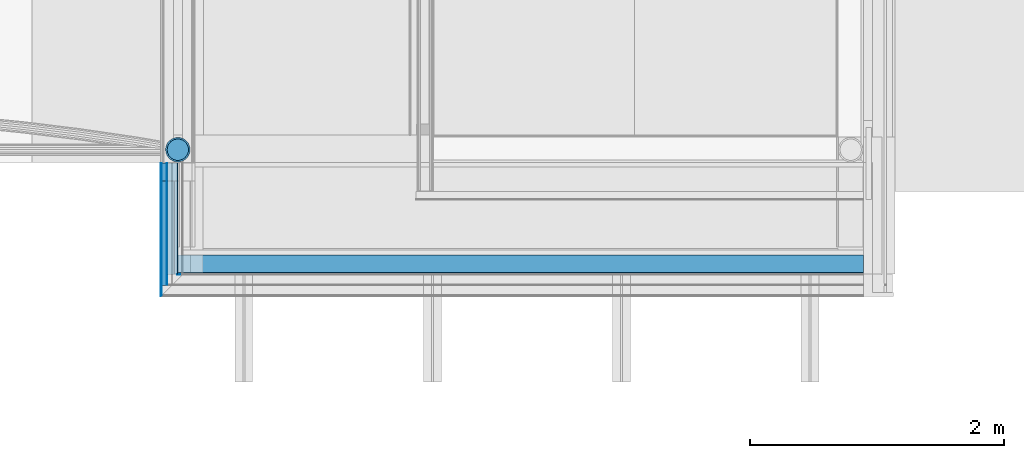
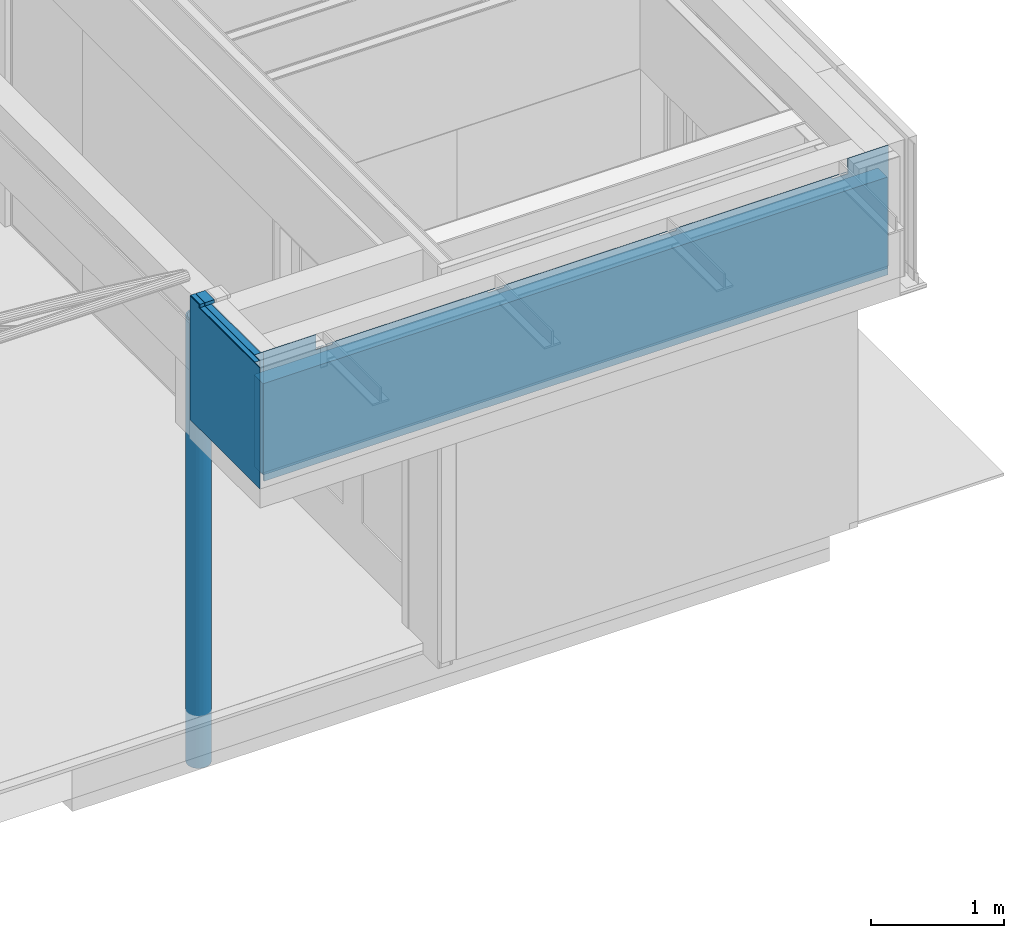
# One storey, part 64 of 165: 12 building element parts, 4 elements without a shape of their own.
"""IFC2X3 building model written with IfcOpenShell, lengths in millimetres."""

from ifc_helpers import new_model, entity, si_unit, converted_unit, derived_unit, money_unit, direction, frame, origin_with_axes, place, context, subcontext, project, spatial, faceted_brep, material, type_object, element, aggregate, save


model = new_model("IFC2X3")

# Units and contexts
model_context = context("Model", 3, precision=0.01, world=origin_with_axes(), true_north=direction((0.0, 1.0)))
body_context = subcontext(model_context, "Body", "Model", "MODEL_VIEW")
ifc_project = project(units=[si_unit("LENGTHUNIT", "METRE", prefix="MILLI"), si_unit("AREAUNIT", "SQUARE_METRE"), si_unit("VOLUMEUNIT", "CUBIC_METRE"), converted_unit("PLANEANGLEUNIT", "DEGREE", entity("IfcPlaneAngleMeasure", 0.0174532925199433), si_unit("PLANEANGLEUNIT", "RADIAN"), dimensions=[0, 0, 0, 0, 0, 0, 0]), money_unit("EUR"), converted_unit("TIMEUNIT", "Year", entity("IfcTimeMeasure", 31556926.0), si_unit("TIMEUNIT", "SECOND"), dimensions=[0, 0, 1, 0, 0, 0, 0]), si_unit("MASSUNIT", "GRAM", prefix="KILO"), si_unit("THERMODYNAMICTEMPERATUREUNIT", "DEGREE_CELSIUS"), si_unit("LUMINOUSINTENSITYUNIT", "LUMEN"), si_unit("ENERGYUNIT", "JOULE", prefix="MEGA"), derived_unit("THERMALCONDUCTANCEUNIT", [(si_unit("POWERUNIT", "WATT"), 1), (si_unit("LENGTHUNIT", "METRE"), -1), (si_unit("THERMODYNAMICTEMPERATUREUNIT", "KELVIN"), -1)]), derived_unit("SPECIFICHEATCAPACITYUNIT", [(si_unit("ENERGYUNIT", "JOULE"), 1), (si_unit("MASSUNIT", "GRAM", prefix="KILO"), -1), (si_unit("THERMODYNAMICTEMPERATUREUNIT", "KELVIN"), -1)]), derived_unit("MASSDENSITYUNIT", [(si_unit("MASSUNIT", "GRAM", prefix="KILO"), 1), (si_unit("VOLUMEUNIT", "CUBIC_METRE"), -1)])], contexts=[model_context])

# Site, building, storey
site_placement = place(None, origin_with_axes())
site = spatial("IfcSite", under=ifc_project, at=site_placement, Name="Site", CompositionType="ELEMENT")
building_placement = place(site_placement, origin_with_axes())
building = spatial("IfcBuilding", under=site, at=building_placement, Name="Naam gebouw", CompositionType="ELEMENT")
storey_placement = place(building_placement, origin_with_axes())
storey = spatial("IfcBuildingStorey", under=building, at=storey_placement, Name="Begane grond", CompositionType="ELEMENT", Elevation=0.0)

# Column, building element parts
column_type = type_object("IfcColumnType", Name="193.7X12.5 194 x 194", PredefinedType="COLUMN")
column_placement = place(storey_placement, frame((24499.99877127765, 4579.999999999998, -480.0), z_axis=(0.0, 0.0, 1.0), x_axis=(1.0, 0.0, 0.0)))
column = element("IfcColumn", 1, at=column_placement, inside=storey, type_object=column_type, Name="28_Kolom-x", ObjectType="COLUMN")
ifc_material_1 = material(Name="Beton gewapend C")
building_element_part_1_placement = place(column_placement, origin_with_axes())
building_element_part_1 = element("IfcBuildingElementPart", 2, at=building_element_part_1_placement, material=ifc_material_1, Name="Beton gewapend C", context=body_context, shape_type="Brep", body=[
    faceted_brep([(80.93323232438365, 23.76414116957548, 4060.0), (84.35000000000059, 0.0, 4060.0), (84.35000000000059, 0.0, 0.0), (80.93323232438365, 23.76414116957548, 0.0), (80.93323232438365, -23.76414116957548, 4060.0), (70.95973549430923, 45.6030529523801, 4060.0), (55.23750290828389, 63.74747659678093, 4060.0), (35.04025634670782, 76.72745880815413, 4060.0), (12.00425660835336, 83.49143862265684, 4060.0), (-12.00425660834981, 83.49143862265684, 4060.0), (-35.04025634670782, 76.72745880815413, 4060.0), (-55.23750290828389, 63.74747659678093, 4060.0), (-70.95973549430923, 45.6030529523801, 4060.0), (-80.93323232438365, 23.76414116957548, 4060.0), (-84.35000000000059, 0.0, 4060.0), (-80.93323232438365, -23.76414116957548, 4060.0), (-70.95973549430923, -45.6030529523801, 4060.0), (-55.23750290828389, -63.74747659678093, 4060.0), (-35.04025634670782, -76.72745880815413, 4060.0), (-12.00425660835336, -83.49143862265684, 4060.0), (12.00425660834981, -83.49143862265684, 4060.0), (35.04025634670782, -76.72745880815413, 4060.0), (55.23750290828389, -63.74747659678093, 4060.0), (70.95973549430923, -45.6030529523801, 4060.0), (80.93323232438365, -23.76414116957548, 0.0), (70.95973549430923, 45.6030529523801, 0.0), (70.95973549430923, -45.6030529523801, 0.0), (55.23750290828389, -63.74747659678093, 0.0), (35.04025634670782, -76.72745880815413, 0.0), (12.00425660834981, -83.49143862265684, 0.0), (-12.00425660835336, -83.49143862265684, 0.0), (-35.04025634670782, -76.72745880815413, 0.0), (-55.23750290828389, -63.74747659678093, 0.0), (-70.95973549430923, -45.6030529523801, 0.0), (-80.93323232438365, -23.76414116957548, 0.0), (-84.35000000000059, 0.0, 0.0), (-80.93323232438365, 23.76414116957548, 0.0), (-70.95973549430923, 45.6030529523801, 0.0), (-55.23750290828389, 63.74747659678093, 0.0), (-35.04025634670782, 76.72745880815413, 0.0), (-12.00425660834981, 83.49143862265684, 0.0), (12.00425660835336, 83.49143862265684, 0.0), (35.04025634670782, 76.72745880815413, 0.0), (55.23750290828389, 63.74747659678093, 0.0)], [[[0, 1, 2, 3]], [[4, 1, 0, 5, 6, 7, 8, 9, 10, 11, 12, 13, 14, 15, 16, 17, 18, 19, 20, 21, 22, 23]], [[1, 4, 24, 2]], [[25, 3, 2, 24, 26, 27, 28, 29, 30, 31, 32, 33, 34, 35, 36, 37, 38, 39, 40, 41, 42, 43]], [[5, 0, 3, 25]], [[6, 5, 25, 43]], [[7, 6, 43, 42]], [[8, 7, 42, 41]], [[9, 8, 41, 40]], [[10, 9, 40, 39]], [[11, 10, 39, 38]], [[12, 11, 38, 37]], [[13, 12, 37, 36]], [[14, 13, 36, 35]], [[15, 14, 35, 34]], [[16, 15, 34, 33]], [[17, 16, 33, 32]], [[18, 17, 32, 31]], [[19, 18, 31, 30]], [[20, 19, 30, 29]], [[21, 20, 29, 28]], [[22, 21, 28, 27]], [[23, 22, 27, 26]], [[4, 23, 26, 24]]]),
    faceted_brep([(80.93323232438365, -23.76414116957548, 4074.999999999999), (84.35000000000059, 0.0, 4074.999999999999), (84.35000000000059, 0.0, 4079.999999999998), (80.93323232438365, -23.76414116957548, 4079.999999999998), (80.93323232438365, 23.76414116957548, 4074.999999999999), (70.95973549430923, -45.6030529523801, 4074.999999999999), (55.23750290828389, -63.74747659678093, 4074.999999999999), (35.04025634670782, -76.72745880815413, 4074.999999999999), (12.00425660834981, -83.49143862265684, 4074.999999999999), (-12.00425660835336, -83.49143862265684, 4074.999999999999), (-35.04025634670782, -76.72745880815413, 4074.999999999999), (-55.23750290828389, -63.74747659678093, 4074.999999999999), (-70.95973549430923, -45.6030529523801, 4074.999999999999), (-80.93323232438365, -23.76414116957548, 4074.999999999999), (-84.35000000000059, 0.0, 4074.999999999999), (-80.93323232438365, 23.76414116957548, 4074.999999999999), (-70.95973549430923, 45.6030529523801, 4074.999999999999), (-55.23750290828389, 63.74747659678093, 4074.999999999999), (-35.04025634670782, 76.72745880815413, 4074.999999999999), (-12.00425660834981, 83.49143862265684, 4074.999999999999), (12.00425660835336, 83.49143862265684, 4074.999999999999), (35.04025634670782, 76.72745880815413, 4074.999999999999), (55.23750290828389, 63.74747659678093, 4074.999999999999), (70.95973549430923, 45.6030529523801, 4074.999999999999), (80.93323232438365, 23.76414116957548, 4079.999999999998), (70.95973549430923, -45.6030529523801, 4079.999999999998), (70.95973549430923, 45.6030529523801, 4079.999999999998), (55.23750290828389, 63.74747659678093, 4079.999999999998), (35.04025634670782, 76.72745880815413, 4079.999999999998), (12.00425660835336, 83.49143862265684, 4079.999999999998), (-12.00425660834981, 83.49143862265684, 4079.999999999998), (-35.04025634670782, 76.72745880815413, 4079.999999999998), (-55.23750290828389, 63.74747659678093, 4079.999999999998), (-70.95973549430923, 45.6030529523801, 4079.999999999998), (-80.93323232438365, 23.76414116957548, 4079.999999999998), (-84.35000000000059, 0.0, 4079.999999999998), (-80.93323232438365, -23.76414116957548, 4079.999999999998), (-70.95973549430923, -45.6030529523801, 4079.999999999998), (-55.23750290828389, -63.74747659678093, 4079.999999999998), (-35.04025634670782, -76.72745880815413, 4079.999999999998), (-12.00425660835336, -83.49143862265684, 4079.999999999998), (12.00425660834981, -83.49143862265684, 4079.999999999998), (35.04025634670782, -76.72745880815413, 4079.999999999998), (55.23750290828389, -63.74747659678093, 4079.999999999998)], [[[0, 1, 2, 3]], [[4, 1, 0, 5, 6, 7, 8, 9, 10, 11, 12, 13, 14, 15, 16, 17, 18, 19, 20, 21, 22, 23]], [[1, 4, 24, 2]], [[25, 3, 2, 24, 26, 27, 28, 29, 30, 31, 32, 33, 34, 35, 36, 37, 38, 39, 40, 41, 42, 43]], [[5, 0, 3, 25]], [[6, 5, 25, 43]], [[7, 6, 43, 42]], [[8, 7, 42, 41]], [[9, 8, 41, 40]], [[10, 9, 40, 39]], [[11, 10, 39, 38]], [[12, 11, 38, 37]], [[13, 12, 37, 36]], [[14, 13, 36, 35]], [[15, 14, 35, 34]], [[16, 15, 34, 33]], [[17, 16, 33, 32]], [[18, 17, 32, 31]], [[19, 18, 31, 30]], [[20, 19, 30, 29]], [[21, 20, 29, 28]], [[22, 21, 28, 27]], [[23, 22, 27, 26]], [[4, 23, 26, 24]]]),
])
ifc_material_2 = material(Name="Metaal - Staal C")
building_element_part_2_placement = place(column_placement, origin_with_axes())
building_element_part_2 = element("IfcBuildingElementPart", 3, at=building_element_part_2_placement, material=ifc_material_2, Name="Metaal - Staal C", context=body_context, shape_type="Brep", body=[
    faceted_brep([(96.84999999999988, 0.0, 0.0), (92.92689449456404, 27.28579813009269, 0.0), (92.92689449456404, 27.28579813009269, 4079.999999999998), (96.84999999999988, 0.0, 4079.999999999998), (92.92689449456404, -27.28579813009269, 0.0), (81.47540465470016, -52.36106317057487, 0.0), (63.42326208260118, -73.19434627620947, 0.0), (40.23294400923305, -88.0978587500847, 0.0), (13.78319208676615, -95.86420664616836, 0.0), (-13.78319208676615, -95.86420664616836, 0.0), (-40.23294400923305, -88.0978587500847, 0.0), (-63.42326208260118, -73.19434627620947, 0.0), (-81.47540465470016, -52.36106317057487, 0.0), (-92.92689449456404, -27.28579813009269, 0.0), (-96.84999999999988, 0.0, 0.0), (-92.92689449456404, 27.28579813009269, 0.0), (-81.47540465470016, 52.36106317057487, 0.0), (-63.42326208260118, 73.19434627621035, 0.0), (-40.23294400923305, 88.0978587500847, 0.0), (-13.78319208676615, 95.86420664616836, 0.0), (13.78319208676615, 95.86420664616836, 0.0), (40.23294400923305, 88.0978587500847, 0.0), (63.42326208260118, 73.19434627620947, 0.0), (81.47540465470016, 52.36106317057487, 0.0), (84.35000000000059, 0.0, 0.0), (80.93323232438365, 23.76414116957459, 0.0), (70.95973549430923, 45.6030529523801, 0.0), (55.23750290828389, 63.74747659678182, 0.0), (35.04025634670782, 76.72745880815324, 0.0), (12.00425660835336, 83.49143862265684, 0.0), (-12.00425660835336, 83.49143862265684, 0.0), (-35.04025634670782, 76.72745880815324, 0.0), (-55.23750290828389, 63.74747659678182, 0.0), (-70.95973549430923, 45.6030529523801, 0.0), (-80.93323232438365, 23.76414116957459, 0.0), (-84.35000000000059, 0.0, 0.0), (-80.93323232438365, -23.76414116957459, 0.0), (-70.95973549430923, -45.60305295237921, 0.0), (-55.23750290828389, -63.74747659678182, 0.0), (-35.04025634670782, -76.72745880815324, 0.0), (-12.00425660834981, -83.49143862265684, 0.0), (12.00425660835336, -83.49143862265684, 0.0), (35.04025634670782, -76.72745880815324, 0.0), (55.23750290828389, -63.74747659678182, 0.0), (70.95973549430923, -45.60305295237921, 0.0), (80.93323232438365, -23.76414116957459, 0.0), (81.47540465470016, 52.36106317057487, 4079.999999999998), (63.42326208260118, 73.19434627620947, 4079.999999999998), (40.23294400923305, 88.0978587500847, 4079.999999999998), (13.78319208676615, 95.86420664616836, 4079.999999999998), (-13.78319208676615, 95.86420664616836, 4079.999999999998), (-40.23294400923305, 88.0978587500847, 4079.999999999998), (-63.42326208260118, 73.19434627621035, 4079.999999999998), (-81.47540465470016, 52.36106317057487, 4079.999999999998), (-92.92689449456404, 27.28579813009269, 4079.999999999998), (-96.84999999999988, 0.0, 4079.999999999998), (-92.92689449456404, -27.28579813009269, 4079.999999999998), (-81.47540465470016, -52.36106317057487, 4079.999999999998), (-63.42326208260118, -73.19434627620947, 4079.999999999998), (-40.23294400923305, -88.0978587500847, 4079.999999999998), (-13.78319208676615, -95.86420664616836, 4079.999999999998), (13.78319208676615, -95.86420664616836, 4079.999999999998), (40.23294400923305, -88.0978587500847, 4079.999999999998), (63.42326208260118, -73.19434627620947, 4079.999999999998), (81.47540465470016, -52.36106317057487, 4079.999999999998), (92.92689449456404, -27.28579813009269, 4079.999999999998), (84.35000000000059, 0.0, 4079.999999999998), (80.93323232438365, -23.76414116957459, 4079.999999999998), (70.95973549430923, -45.60305295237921, 4079.999999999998), (55.23750290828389, -63.74747659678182, 4079.999999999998), (35.04025634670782, -76.72745880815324, 4079.999999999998), (12.00425660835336, -83.49143862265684, 4079.999999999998), (-12.00425660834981, -83.49143862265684, 4079.999999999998), (-35.04025634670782, -76.72745880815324, 4079.999999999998), (-55.23750290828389, -63.74747659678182, 4079.999999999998), (-70.95973549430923, -45.60305295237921, 4079.999999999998), (-80.93323232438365, -23.76414116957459, 4079.999999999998), (-84.35000000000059, 0.0, 4079.999999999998), (-80.93323232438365, 23.76414116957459, 4079.999999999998), (-70.95973549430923, 45.6030529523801, 4079.999999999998), (-55.23750290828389, 63.74747659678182, 4079.999999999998), (-35.04025634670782, 76.72745880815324, 4079.999999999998), (-12.00425660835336, 83.49143862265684, 4079.999999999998), (12.00425660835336, 83.49143862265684, 4079.999999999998), (35.04025634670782, 76.72745880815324, 4079.999999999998), (55.23750290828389, 63.74747659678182, 4079.999999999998), (70.95973549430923, 45.6030529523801, 4079.999999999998), (80.93323232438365, 23.76414116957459, 4079.999999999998)], [[[0, 1, 2, 3]], [[0, 4, 5, 6, 7, 8, 9, 10, 11, 12, 13, 14, 15, 16, 17, 18, 19, 20, 21, 22, 23, 1], [24, 25, 26, 27, 28, 29, 30, 31, 32, 33, 34, 35, 36, 37, 38, 39, 40, 41, 42, 43, 44, 45]], [[1, 23, 46, 2]], [[3, 2, 46, 47, 48, 49, 50, 51, 52, 53, 54, 55, 56, 57, 58, 59, 60, 61, 62, 63, 64, 65], [66, 67, 68, 69, 70, 71, 72, 73, 74, 75, 76, 77, 78, 79, 80, 81, 82, 83, 84, 85, 86, 87]], [[4, 0, 3, 65]], [[5, 4, 65, 64]], [[6, 5, 64, 63]], [[7, 6, 63, 62]], [[8, 7, 62, 61]], [[9, 8, 61, 60]], [[10, 9, 60, 59]], [[11, 10, 59, 58]], [[12, 11, 58, 57]], [[13, 12, 57, 56]], [[14, 13, 56, 55]], [[15, 14, 55, 54]], [[16, 15, 54, 53]], [[17, 16, 53, 52]], [[18, 17, 52, 51]], [[19, 18, 51, 50]], [[20, 19, 50, 49]], [[21, 20, 49, 48]], [[22, 21, 48, 47]], [[23, 22, 47, 46]], [[25, 24, 66, 87]], [[26, 25, 87, 86]], [[27, 26, 86, 85]], [[28, 27, 85, 84]], [[29, 28, 84, 83]], [[30, 29, 83, 82]], [[31, 30, 82, 81]], [[32, 31, 81, 80]], [[33, 32, 80, 79]], [[34, 33, 79, 78]], [[35, 34, 78, 77]], [[36, 35, 77, 76]], [[37, 36, 76, 75]], [[38, 37, 75, 74]], [[39, 38, 74, 73]], [[40, 39, 73, 72]], [[41, 40, 72, 71]], [[42, 41, 71, 70]], [[43, 42, 70, 69]], [[44, 43, 69, 68]], [[45, 44, 68, 67]], [[24, 45, 67, 66]]]),
])
aggregate(column, [building_element_part_1, building_element_part_2])

# Wall, building element parts
wall_type_1 = type_object("IfcWallType", Name="21 STO Buitengevelisolatie 120 271", PredefinedType="NOTDEFINED")
wall_1_placement = place(storey_placement, frame((24499.99903999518, 3600.0, 2610.0), z_axis=(0.0, 0.0, 1.0), x_axis=(0.0, 1.0, 0.0)))
wall_1 = element("IfcWall", 4, at=wall_1_placement, inside=storey, type_object=wall_type_1, Name="21_Wand-x")
ifc_material_3 = material(Name="STO weefsellaag")
building_element_part_3_placement = place(wall_1_placement, origin_with_axes())
building_element_part_3 = element("IfcBuildingElementPart", 5, at=building_element_part_3_placement, material=ifc_material_3, Name="STO weefsellaag", context=body_context, shape_type="Brep", body=[
    faceted_brep([(-168.000000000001, 128.0000000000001, 1249.999999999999), (-167.9999992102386, 128.0002679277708, 145.9999999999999), (874.9999999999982, 128.0002679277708, 145.9999999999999), (874.9999999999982, 128.0000000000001, 1250.0), (734.7576368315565, 128.0000000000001, 1250.0), (-168.000000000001, 132.9999999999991, 1249.999999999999), (-168.000000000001, 133.0002687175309, 145.9999999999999), (874.9999999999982, 133.0002687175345, 145.9999999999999), (874.9999999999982, 132.9999999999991, 1250.0), (734.7576368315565, 132.9999999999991, 1250.0)], [[[0, 1, 2, 3, 4]], [[5, 6, 1, 0]], [[6, 7, 2, 1]], [[3, 2, 7, 8]], [[4, 3, 8, 9]], [[0, 4, 9, 5]], [[8, 7, 6, 5, 9]]]),
])
ifc_material_4 = material(Name="Isolatie - STO EPS")
building_element_part_4_placement = place(wall_1_placement, origin_with_axes())
building_element_part_4 = element("IfcBuildingElementPart", 6, at=building_element_part_4_placement, material=ifc_material_4, Name="Isolatie - STO EPS", context=body_context, shape_type="Brep", body=[
    faceted_brep([(-87.99999999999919, 88.00000000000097, 1249.999999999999), (-87.99999999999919, 88.00000000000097, 145.9999999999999), (874.9999999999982, 88.00000000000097, 145.9999999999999), (874.9999999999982, 88.00000000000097, 1280.0), (734.7576368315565, 88.00000000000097, 1280.0), (734.7576368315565, 88.00000000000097, 1250.0), (-87.99999999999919, 128.0000000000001, 1249.999999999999), (-87.99999999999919, 128.0002687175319, 145.9999999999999), (874.9999999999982, 128.0002687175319, 145.9999999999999), (874.9999999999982, 128.0000000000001, 1280.0), (734.7576368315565, 128.0000000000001, 1280.0), (734.7576368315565, 128.0000000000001, 1250.0)], [[[0, 1, 2, 3, 4, 5]], [[6, 7, 1, 0]], [[7, 8, 2, 1]], [[3, 2, 8, 9]], [[4, 3, 9, 10]], [[4, 10, 11, 5]], [[0, 5, 11, 6]], [[9, 8, 7, 6, 11, 10]]]),
])
ifc_material_5 = material(Name="STO pleisterlaag")
building_element_part_5_placement = place(wall_1_placement, origin_with_axes())
building_element_part_5 = element("IfcBuildingElementPart", 7, at=building_element_part_5_placement, material=ifc_material_5, Name="STO pleisterlaag", context=body_context, shape_type="Brep", body=[
    faceted_brep([(-173.0000000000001, 132.9999999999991, 1249.999999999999), (-173.0000000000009, 133.0002687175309, 145.9999999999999), (874.9999999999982, 133.0002687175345, 145.9999999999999), (874.9999999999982, 132.9999999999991, 1250.0), (734.7576368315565, 132.9999999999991, 1250.0), (-173.0000000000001, 135.9999999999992, 1249.999999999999), (-173.0000000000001, 136.000268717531, 145.9999999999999), (874.9999999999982, 136.0002687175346, 145.9999999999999), (874.9999999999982, 135.9999999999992, 1280.0), (875.0000000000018, 134.999999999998, 1280.0), (874.9999999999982, 134.999999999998, 1250.0), (734.7576368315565, 134.999999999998, 1250.0), (734.7576368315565, 135.9999999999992, 1250.0), (734.7576368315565, 135.9999999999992, 1280.0), (734.7576368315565, 134.999999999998, 1280.0)], [[[0, 1, 2, 3, 4]], [[5, 6, 1, 0]], [[6, 7, 2, 1]], [[3, 2, 7, 8, 9, 10]], [[4, 3, 10, 11]], [[4, 11, 12, 5, 0]], [[8, 7, 6, 5, 12, 13]], [[14, 9, 8, 13]], [[11, 10, 9, 14]], [[14, 13, 12, 11]]]),
])
building_element_part_6_placement = place(wall_1_placement, origin_with_axes())
building_element_part_6 = element("IfcBuildingElementPart", 8, at=building_element_part_6_placement, material=ifc_material_4, Name="Isolatie - STO EPS", context=body_context, shape_type="Brep", body=[
    faceted_brep([(-3.999999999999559, 4.000000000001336, 1249.999999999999), (-3.999999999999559, 4.000000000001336, 145.9999999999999), (874.9999999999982, 4.000000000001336, 145.9999999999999), (874.9999999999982, 4.000000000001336, 970.0000011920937), (0.0, 4.000000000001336, 970.0000011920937), (0.0, 4.000000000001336, 984.9999999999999), (874.9999999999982, 4.000000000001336, 984.9999999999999), (874.9999999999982, 4.000000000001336, 1219.999999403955), (0.0, 4.000000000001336, 1219.999999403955), (0.0, 4.000000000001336, 1250.000001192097), (-3.999999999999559, 83.99999999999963, 145.9999999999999), (-3.999999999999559, 83.99999999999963, 1249.999999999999), (874.9999999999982, 83.99999999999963, 145.9999999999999), (874.9999999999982, 83.99999999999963, 1280.0), (874.9999999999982, 4.000000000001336, 1280.0), (874.9999999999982, 4.000000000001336, 1250.000001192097), (874.9999999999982, 31.00000953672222, 1250.000001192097), (874.9999999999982, 31.00000953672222, 984.9999999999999), (874.9999999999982, 46.00000834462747, 984.9999999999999), (874.9999999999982, 46.00000834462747, 970.0000011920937), (0.0, 46.00000834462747, 970.0000011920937), (0.0, 46.00000834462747, 984.9999999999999), (0.0, 31.00000953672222, 984.9999999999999), (0.0, 31.00000953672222, 1250.000001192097), (0.0, 25.00000834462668, 1219.999999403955), (0.0, 25.00000834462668, 984.9999999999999), (874.9999999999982, 25.00000834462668, 984.9999999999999), (874.9999999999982, 25.00000834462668, 1219.999999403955), (734.7576368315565, 31.00000953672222, 1250.000001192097), (734.7576368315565, 83.99999999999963, 1250.0), (734.7576368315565, 83.99999999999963, 1280.0), (734.7576368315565, 4.000000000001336, 1280.0), (734.7576368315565, 4.000000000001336, 1250.000001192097)], [[[0, 1, 2, 3, 4, 5, 6, 7, 8, 9]], [[10, 1, 0, 11]], [[12, 2, 1, 10]], [[3, 2, 12, 13, 14, 15, 16, 17, 18, 19]], [[19, 20, 4, 3]], [[21, 22, 23, 9, 8, 24, 25, 5, 4, 20]], [[5, 25, 26, 6]], [[6, 26, 27, 7]], [[27, 24, 8, 7]], [[0, 9, 23, 28, 29, 11]], [[13, 12, 10, 11, 29, 30]], [[30, 31, 14, 13]], [[14, 31, 32, 15]], [[32, 28, 16, 15]], [[23, 22, 17, 16, 28]], [[22, 21, 18, 17]], [[21, 20, 19, 18]], [[25, 24, 27, 26]], [[30, 29, 28, 32, 31]]]),
])
ifc_material_6 = material(Name="STO lijmlaag")
building_element_part_7_placement = place(wall_1_placement, origin_with_axes())
building_element_part_7 = element("IfcBuildingElementPart", 9, at=building_element_part_7_placement, material=ifc_material_6, Name="STO lijmlaag", context=body_context, shape_type="Brep", body=[
    faceted_brep([(-83.99999999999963, 83.99999999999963, 1249.999999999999), (-83.99999999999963, 83.99999999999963, 145.9999999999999), (874.9999999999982, 83.99999999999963, 145.9999999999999), (874.9999999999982, 83.99999999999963, 1250.0), (734.7576368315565, 83.99999999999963, 1250.0), (-83.99999999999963, 88.00000000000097, 1249.999999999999), (-83.99999999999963, 88.00000000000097, 145.9999999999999), (874.9999999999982, 88.00000000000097, 145.9999999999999), (874.9999999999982, 88.00000000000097, 1250.0), (734.7576368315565, 88.00000000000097, 1250.0)], [[[0, 1, 2, 3, 4]], [[5, 6, 1, 0]], [[6, 7, 2, 1]], [[3, 2, 7, 8]], [[4, 3, 8, 9]], [[0, 4, 9, 5]], [[8, 7, 6, 5, 9]]]),
])
building_element_part_8_placement = place(wall_1_placement, origin_with_axes())
building_element_part_8 = element("IfcBuildingElementPart", 10, at=building_element_part_8_placement, material=ifc_material_6, Name="STO lijmlaag", context=body_context, shape_type="Brep", body=[
    faceted_brep([(0.0, 0.0, 970.0000011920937), (0.0, 0.0, 145.9999999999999), (874.9999999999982, 0.0, 145.9999999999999), (874.9999999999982, 0.0, 970.0000011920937), (0.0, 4.000000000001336, 970.0000011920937), (0.0, 4.000000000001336, 145.9999999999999), (874.9999999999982, 4.000000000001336, 145.9999999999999), (874.9999999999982, 4.000000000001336, 970.0000011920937)], [[[0, 1, 2, 3]], [[4, 5, 1, 0]], [[5, 6, 2, 1]], [[3, 2, 6, 7]], [[7, 4, 0, 3]], [[7, 6, 5, 4]]]),
    faceted_brep([(874.9999999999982, 0.0, 1219.999999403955), (0.0, 0.0, 1219.999999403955), (0.0, 0.0, 984.9999999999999), (874.9999999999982, 0.0, 984.9999999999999), (874.9999999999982, 4.000000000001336, 1219.999999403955), (0.0, 4.000000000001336, 1219.999999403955), (0.0, 4.000000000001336, 984.9999999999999), (874.9999999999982, 4.000000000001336, 984.9999999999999)], [[[0, 1, 2, 3]], [[1, 0, 4, 5]], [[1, 5, 6, 2]], [[7, 3, 2, 6]], [[4, 0, 3, 7]], [[5, 4, 7, 6]]]),
])
aggregate(wall_1, [building_element_part_3, building_element_part_4, building_element_part_5, building_element_part_6, building_element_part_7, building_element_part_8])

# Wall, building element part
wall_type_2 = type_object("IfcWallType", Name="21 STO Buitengevelisolatie 160 390", PredefinedType="NOTDEFINED")
wall_2_placement = place(storey_placement, frame((29899.99999999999, 3599.999999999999, 2610.0), z_axis=(0.0, 0.0, 1.0), x_axis=(-1.0, 0.0, 0.0)))
wall_2 = element("IfcWall", 11, at=wall_2_placement, inside=storey, type_object=wall_type_2, Name="21_Wand-x")
building_element_part_9_placement = place(wall_2_placement, origin_with_axes())
building_element_part_9 = element("IfcBuildingElementPart", 12, at=building_element_part_9_placement, material=ifc_material_6, Name="STO lijmlaag", context=body_context, shape_type="Brep", body=[
    faceted_brep([(0.0, 0.0, 1249.999999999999), (0.0, 3.999999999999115, 1249.999999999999), (-2.235182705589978e-06, 3.999999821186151, 145.9999999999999), (-2.235182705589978e-06, 0.0, 145.9999999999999), (350.0000000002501, 0.0, 1250.0), (350.0000000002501, 3.999999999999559, 1250.0), (5404.000960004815, 3.999999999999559, 1249.999999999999), (5404.000960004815, 3.999999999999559, 145.9999999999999), (5364.001228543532, 3.999999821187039, 145.9999999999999), (350.0000000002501, 4.000000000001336, 1130.0), (412.5000000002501, 4.000000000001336, 1130.0), (412.5000000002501, 3.999999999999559, 1125.000000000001), (350.0000000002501, 3.999999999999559, 1125.000000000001), (350.0000000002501, 3.999999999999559, 1110.000000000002), (490.0000000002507, 3.999999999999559, 1110.000000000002), (490.0000000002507, 3.999999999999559, 1125.000000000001), (427.5000000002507, 3.999999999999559, 1125.000000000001), (427.5000000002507, 4.000000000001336, 1130.0), (1897.50000000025, 4.000000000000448, 1130.0), (1897.50000000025, 3.999999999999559, 1125.000000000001), (1835.00000000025, 3.999999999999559, 1125.000000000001), (1835.00000000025, 3.999999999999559, 1110.000000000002), (1975.00000000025, 3.999999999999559, 1110.000000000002), (1975.00000000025, 3.999999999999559, 1125.000000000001), (1912.50000000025, 3.999999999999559, 1125.000000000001), (1912.50000000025, 4.000000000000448, 1130.0), (3387.500961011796, 4.000000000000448, 1130.0), (3387.500961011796, 3.999999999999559, 1125.000000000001), (3325.000961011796, 3.999999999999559, 1125.000000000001), (3325.000961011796, 3.999999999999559, 1110.000000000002), (3465.000961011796, 3.999999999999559, 1110.000000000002), (3465.000961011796, 3.999999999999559, 1125.000000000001), (3402.500961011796, 3.999999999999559, 1125.000000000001), (3402.500961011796, 4.000000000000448, 1130.0), (4872.500960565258, 3.999999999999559, 1130.0), (4872.500960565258, 3.999999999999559, 1125.000000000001), (4810.000960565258, 3.999999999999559, 1125.000000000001), (4810.000960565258, 3.999999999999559, 1110.000000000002), (4950.000960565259, 3.999999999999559, 1110.000000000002), (4950.000960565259, 3.999999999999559, 1125.000000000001), (4887.500960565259, 3.999999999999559, 1125.000000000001), (4887.500960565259, 3.999999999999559, 1130.0), (4950.000960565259, 3.999999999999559, 1130.0), (4950.000960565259, 3.999999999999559, 1250.0), (5404.000960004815, 0.0, 145.9999999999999), (5360.001228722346, 0.0, 145.9999999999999), (5404.000960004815, 0.0, 1249.999999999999), (4950.000960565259, 0.0, 1250.0), (4950.000960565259, 0.0, 1130.0), (4887.500960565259, 0.0, 1130.0), (4887.500960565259, 0.0, 1125.000000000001), (4950.000960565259, 0.0, 1125.000000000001), (4950.000960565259, 0.0, 1110.000000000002), (4810.000960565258, 0.0, 1110.000000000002), (4810.000960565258, 0.0, 1125.000000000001), (4872.500960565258, 0.0, 1125.000000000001), (4872.500960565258, 0.0, 1130.0), (3402.500961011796, 0.0, 1130.0), (3402.500961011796, 0.0, 1125.000000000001), (3465.000961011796, 0.0, 1125.000000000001), (3465.000961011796, 0.0, 1110.000000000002), (3325.000961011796, 0.0, 1110.000000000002), (3325.000961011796, 0.0, 1125.000000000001), (3387.500961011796, 0.0, 1125.000000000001), (3387.500961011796, 0.0, 1130.0), (1912.50000000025, 0.0, 1130.0), (1912.50000000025, 0.0, 1125.000000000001), (1975.00000000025, 0.0, 1125.000000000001), (1975.00000000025, 0.0, 1110.000000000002), (1835.00000000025, 0.0, 1110.000000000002), (1835.00000000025, 0.0, 1125.000000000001), (1897.50000000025, 0.0, 1125.000000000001), (1897.50000000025, 0.0, 1130.0), (427.5000000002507, 0.0, 1130.0), (427.5000000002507, 0.0, 1125.000000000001), (490.0000000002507, 0.0, 1125.000000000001), (490.0000000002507, 0.0, 1110.000000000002), (350.0000000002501, 0.0, 1110.000000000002), (350.0000000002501, 0.0, 1125.000000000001), (412.5000000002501, 0.0, 1125.000000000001), (412.5000000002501, 0.0, 1130.0), (350.0000000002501, 0.0, 1130.0)], [[[0, 1, 2, 3]], [[1, 0, 4, 5]], [[6, 7, 8, 2, 1, 5, 9, 10, 11, 12, 13, 14, 15, 16, 17, 18, 19, 20, 21, 22, 23, 24, 25, 26, 27, 28, 29, 30, 31, 32, 33, 34, 35, 36, 37, 38, 39, 40, 41, 42, 43]], [[7, 44, 45, 3, 2, 8]], [[4, 0, 3, 45, 44, 46, 47, 48, 49, 50, 51, 52, 53, 54, 55, 56, 57, 58, 59, 60, 61, 62, 63, 64, 65, 66, 67, 68, 69, 70, 71, 72, 73, 74, 75, 76, 77, 78, 79, 80, 81]], [[5, 4, 81, 9]], [[6, 46, 44, 7]], [[9, 81, 80, 10]], [[10, 80, 79, 11]], [[11, 79, 78, 12]], [[12, 78, 77, 13]], [[14, 13, 77, 76]], [[14, 76, 75, 15]], [[75, 74, 16, 15]], [[16, 74, 73, 17]], [[18, 17, 73, 72]], [[18, 72, 71, 19]], [[19, 71, 70, 20]], [[20, 70, 69, 21]], [[21, 69, 68, 22]], [[22, 68, 67, 23]], [[23, 67, 66, 24]], [[24, 66, 65, 25]], [[25, 65, 64, 26]], [[26, 64, 63, 27]], [[27, 63, 62, 28]], [[28, 62, 61, 29]], [[29, 61, 60, 30]], [[30, 60, 59, 31]], [[31, 59, 58, 32]], [[33, 32, 58, 57]], [[33, 57, 56, 34]], [[34, 56, 55, 35]], [[35, 55, 54, 36]], [[36, 54, 53, 37]], [[38, 37, 53, 52]], [[38, 52, 51, 39]], [[39, 51, 50, 40]], [[40, 50, 49, 41]], [[41, 49, 48, 42]], [[42, 48, 47, 43]], [[43, 47, 46, 6]]]),
])
aggregate(wall_2, [building_element_part_9])

# Beam, building element parts
beam_type = type_object("IfcBeamType", Name="31 HSB boven hoofdentree 880 x 928", PredefinedType="BEAM")
beam_placement = place(storey_placement, frame((29899.99999999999, 4479.999981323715, 2600.000000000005), z_axis=(0.0, 0.0, 1.0), x_axis=(4.749795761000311e-09, 1.0, 0.0)))
beam = element("IfcBeam", 13, at=beam_placement, inside=storey, type_object=beam_type, Name="28_Balk-x", ObjectType="BEAM")
ifc_material_7 = material(Name="Cementgebonden plaatmateriaal")
building_element_part_10_placement = place(beam_placement, origin_with_axes())
building_element_part_10 = element("IfcBuildingElementPart", 14, at=building_element_part_10_placement, material=ifc_material_7, Name="Cementgebonden plaatmateriaal", context=body_context, shape_type="Brep", body=[
    faceted_brep([(-867.9999923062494, 5400.000960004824, 999.999999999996), (-880.0000033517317, 5400.000960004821, 999.999999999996), (-880.0000033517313, 0.0, 999.999999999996), (-867.9999923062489, 0.0, 999.999999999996), (-868.0514888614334, 5400.000960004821, 122.0089569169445), (-867.9999923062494, 5400.000960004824, 122.0089569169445), (-867.9999923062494, 5400.000960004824, 71.99999395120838), (-880.0000033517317, 5400.000960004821, 71.99999395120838), (-880.0000033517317, 0.0, 71.99999395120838), (-867.9999923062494, 0.0, 71.99999395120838), (-867.9999923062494, 0.0, 122.0089569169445), (-868.051488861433, 0.0, 122.0089569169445)], [[[0, 1, 2, 3]], [[0, 4, 5, 6, 7, 1]], [[1, 7, 8, 2]], [[3, 2, 8, 9, 10, 11]], [[4, 0, 3, 11]], [[5, 4, 11, 10]], [[6, 5, 10, 9]], [[7, 6, 9, 8]]]),
])
ifc_material_8 = material(Name="ALG - ISOLATIE")
building_element_part_11_placement = place(beam_placement, origin_with_axes())
building_element_part_11 = element("IfcBuildingElementPart", 15, at=building_element_part_11_placement, material=ifc_material_8, Name="ALG - ISOLATIE", context=body_context, shape_type="Brep", body=[
    faceted_brep([(-727.993698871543, 5400.000960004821, 223.999987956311), (-727.9484996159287, 5400.000960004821, 957.0000000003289), (-727.9484996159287, 0.0, 957.0000000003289), (-727.9936988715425, 0.0, 223.999987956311), (-727.9999974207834, 5400.000960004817, 121.9999939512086), (-868.0514946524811, 5400.000960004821, 122.0089533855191), (-867.9999968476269, 5400.000960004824, 957.0089594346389), (-867.9999968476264, 0.0, 957.0089594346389), (-868.0514946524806, 0.0, 122.0089533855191), (-727.999997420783, 0.0, 121.9999939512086)], [[[0, 1, 2, 3]], [[0, 4, 5, 6, 1]], [[1, 6, 7, 2]], [[3, 2, 7, 8, 9]], [[4, 0, 3, 9]], [[5, 4, 9, 8]], [[6, 5, 8, 7]]]),
])
ifc_material_9 = material(Name="Isolatie - Kunststof hard")
building_element_part_12_placement = place(beam_placement, origin_with_axes())
building_element_part_12 = element("IfcBuildingElementPart", 16, at=building_element_part_12_placement, material=ifc_material_9, Name="Isolatie - Kunststof hard", context=body_context, shape_type="Brep", body=[
    faceted_brep([(-727.999997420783, 5400.000960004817, 995.0017888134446), (-727.999997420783, 5400.000960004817, 999.999999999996), (-727.999997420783, 0.0, 999.999999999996), (-727.999997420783, 0.0, 995.0017888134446), (-867.9999974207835, 5400.000960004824, 995.0017888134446), (-867.9999974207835, 5400.000960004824, 999.999999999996), (-867.9999974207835, 0.0, 999.999999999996), (-867.9999974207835, 0.0, 995.0017888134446)], [[[0, 1, 2, 3]], [[0, 4, 5, 1]], [[1, 5, 6, 2]], [[3, 2, 6, 7]], [[4, 0, 3, 7]], [[5, 4, 7, 6]]]),
])
aggregate(beam, [building_element_part_10, building_element_part_11, building_element_part_12])

save(model, "model.ifc")
